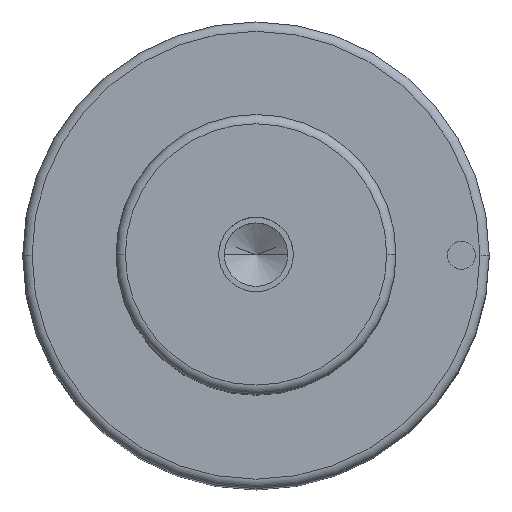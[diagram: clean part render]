
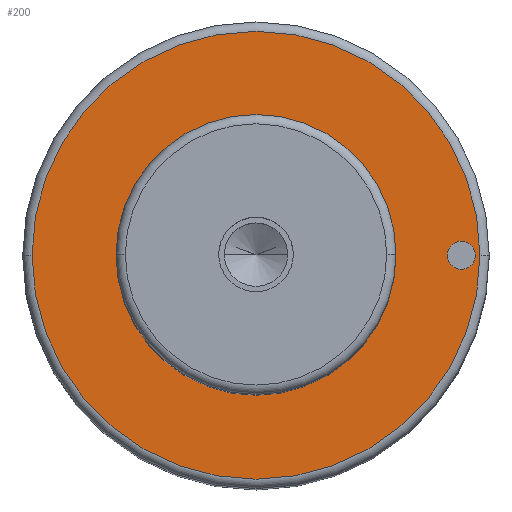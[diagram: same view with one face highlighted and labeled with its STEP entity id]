
A CAD part, top view. The second image highlights one B-rep face of the part: STEP entity #200.
In plain terms, the highlighted planar face has unit normal (0, 0, 1).
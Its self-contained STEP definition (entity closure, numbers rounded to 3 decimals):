
#99=PLANE('',#596);
#107=FACE_BOUND('',#265,.T.);
#108=FACE_BOUND('',#266,.T.);
#109=FACE_BOUND('',#267,.T.);
#200=ADVANCED_FACE('',(#107,#108,#109),#99,.T.);
#265=EDGE_LOOP('',(#359,#360));
#266=EDGE_LOOP('',(#361,#362));
#267=EDGE_LOOP('',(#363,#364));
#359=ORIENTED_EDGE('',*,*,#460,.F.);
#360=ORIENTED_EDGE('',*,*,#461,.F.);
#361=ORIENTED_EDGE('',*,*,#485,.F.);
#362=ORIENTED_EDGE('',*,*,#486,.F.);
#363=ORIENTED_EDGE('',*,*,#456,.T.);
#364=ORIENTED_EDGE('',*,*,#454,.T.);
#411=VERTEX_POINT('',#808);
#412=VERTEX_POINT('',#810);
#413=VERTEX_POINT('',#816);
#416=VERTEX_POINT('',#821);
#430=VERTEX_POINT('',#875);
#431=VERTEX_POINT('',#876);
#454=EDGE_CURVE('',#412,#411,#513,.T.);
#456=EDGE_CURVE('',#411,#412,#514,.T.);
#460=EDGE_CURVE('',#416,#413,#518,.T.);
#461=EDGE_CURVE('',#413,#416,#519,.T.);
#485=EDGE_CURVE('',#430,#431,#533,.T.);
#486=EDGE_CURVE('',#431,#430,#534,.T.);
#513=CIRCLE('',#558,15.);
#514=CIRCLE('',#560,15.);
#518=CIRCLE('',#565,24.);
#519=CIRCLE('',#567,24.);
#533=CIRCLE('',#594,1.5);
#534=CIRCLE('',#595,1.5);
#558=AXIS2_PLACEMENT_3D('',#809,#647,#648);
#560=AXIS2_PLACEMENT_3D('',#813,#652,#653);
#565=AXIS2_PLACEMENT_3D('',#822,#662,#663);
#567=AXIS2_PLACEMENT_3D('',#824,#666,#667);
#594=AXIS2_PLACEMENT_3D('',#874,#730,#731);
#595=AXIS2_PLACEMENT_3D('',#877,#732,#733);
#596=AXIS2_PLACEMENT_3D('',#878,#734,#735);
#647=DIRECTION('',(0.,0.,-1.));
#648=DIRECTION('',(0.,1.,0.));
#652=DIRECTION('',(0.,0.,-1.));
#653=DIRECTION('',(0.,-1.,0.));
#662=DIRECTION('',(0.,0.,-1.));
#663=DIRECTION('',(0.,1.,0.));
#666=DIRECTION('',(0.,0.,-1.));
#667=DIRECTION('',(0.,-1.,0.));
#730=DIRECTION('',(0.,0.,1.));
#731=DIRECTION('',(0.,1.,0.));
#732=DIRECTION('',(0.,0.,1.));
#733=DIRECTION('',(0.,-1.,0.));
#734=DIRECTION('',(0.,0.,1.));
#735=DIRECTION('',(0.,-1.,0.));
#808=CARTESIAN_POINT('',(-15.,0.,89.));
#809=CARTESIAN_POINT('',(0.,0.,89.));
#810=CARTESIAN_POINT('',(15.,0.,89.));
#813=CARTESIAN_POINT('',(0.,0.,89.));
#816=CARTESIAN_POINT('',(-24.,0.,89.));
#821=CARTESIAN_POINT('',(24.,0.,89.));
#822=CARTESIAN_POINT('',(0.,0.,89.));
#824=CARTESIAN_POINT('',(0.,0.,89.));
#874=CARTESIAN_POINT('',(22.,0.,89.));
#875=CARTESIAN_POINT('',(20.5,0.,89.));
#876=CARTESIAN_POINT('',(23.5,0.,89.));
#877=CARTESIAN_POINT('',(22.,0.,89.));
#878=CARTESIAN_POINT('',(0.,0.,89.));
